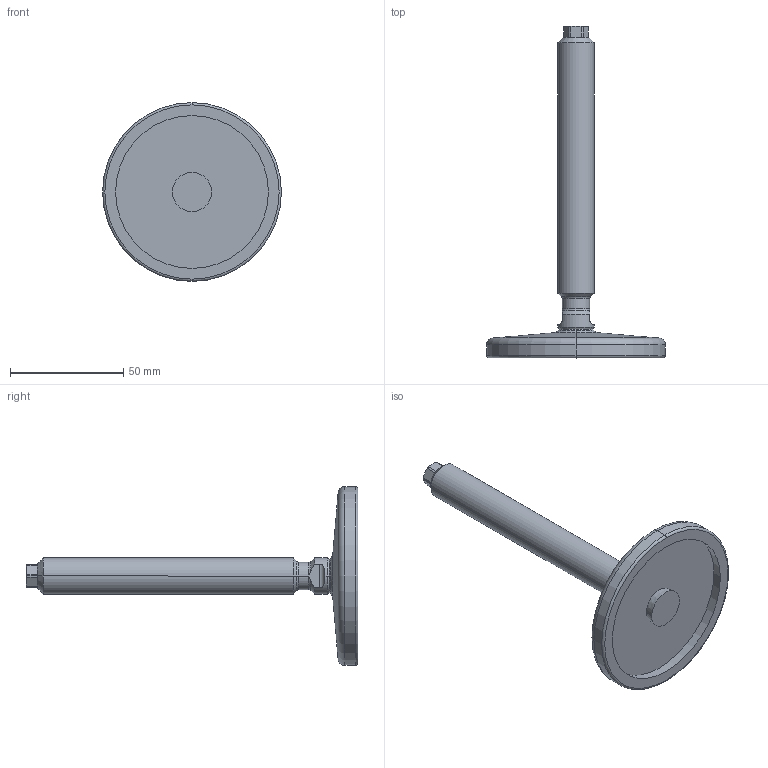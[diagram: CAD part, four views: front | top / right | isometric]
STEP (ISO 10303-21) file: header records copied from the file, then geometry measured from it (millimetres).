
FILE_DESCRIPTION (( 'STEP AP214' ), '1' );
FILE_NAME ('21-80-M16-125-D0-V.step', '2020-10-02T17:35:48', ( '' ), ( '' ), 'SwSTEP 2.0', 'SolidWorks 2019', '' );
FILE_SCHEMA (( 'AUTOMOTIVE_DESIGN' ));
Length unit declared in the file: millimetre
Products named in the file (3): 21-80-M16-125-D0-V; WB21_Spindel_V^WB21_V_M16-125; WB21_Fußteller 21^WB21_V_D0-080-R10-B7 (M8 M10_M12_M16)
Assembly tree (2 placements, depth 2):
  21-80-M16-125-D0-V
    WB21_Fußteller 21^WB21_V_D0-080-R10-B7 (M8 M10_M12_M16)
    WB21_Spindel_V^WB21_V_M16-125
Bounding box: 79 x 146.64 x 79 mm (x, y, z)
Volume: 57019.5 mm3; surface area: 20176.5 mm2
Topology: 2 solids, 2 shells, 79 faces, 177 edges, 105 vertices
Faces by surface type: cylinder 23, cone 21, plane 21, torus 10, sphere 4
Entity records: 2438 total; most frequent: CARTESIAN_POINT 522, DIRECTION 406, ORIENTED_EDGE 354, EDGE_CURVE 177, AXIS2_PLACEMENT_3D 173, VERTEX_POINT 105, CIRCLE 89, EDGE_LOOP 82
